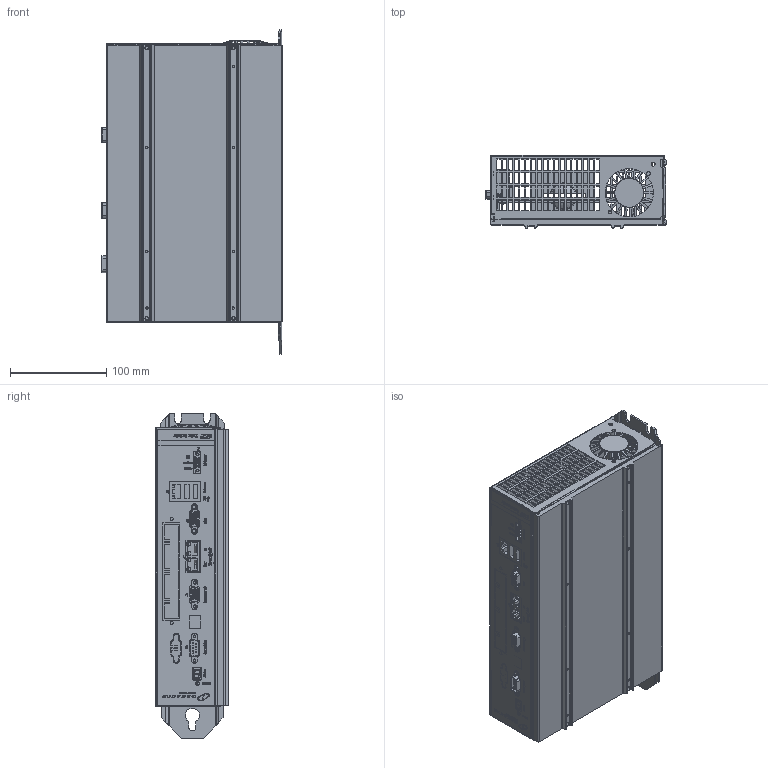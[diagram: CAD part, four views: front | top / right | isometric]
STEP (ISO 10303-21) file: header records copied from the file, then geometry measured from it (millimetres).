
FILE_DESCRIPTION (( 'STEP AP203' ), '1' );
FILE_NAME ('eZMP_ENCLOSURE.STEP', '2010-10-28T11:20:18', ( '' ), ( '' ), 'SwSTEP 2.0', 'SolidWorks 2009', '' );
FILE_SCHEMA (( 'CONFIG_CONTROL_DESIGN' ));
Products named in the file (14): eZMP_ENCLOSURE; Heatsink1110-0110r03a_1; Lid 1116-2017r05a_1; 1116-2018; Overlay; main board; LED; LED DIGIT  DISPLAY - NINGBO-FYS-3911AX_BX-XX; P2_; J9_; Ethernet_port; 482036772; Conn Phoenix  1827871; j6
Assembly tree (13 placements, depth 2):
  eZMP_ENCLOSURE
    LED DIGIT  DISPLAY - NINGBO-FYS-3911AX_BX-XX
    LED
    Conn Phoenix  1827871
    main board
    482036772
    1116-2018
    Ethernet_port
    Overlay
    j6
    Lid 1116-2017r05a_1
    J9_
    Heatsink1110-0110r03a_1
    P2_
Bounding box: 187.3 x 75.9 x 338 mm (x, y, z)
Volume: 636299.9 mm3; surface area: 606516.1 mm2
Topology: 45 solids, 45 shells, 5812 faces, 15822 edges, 10381 vertices
Faces by surface type: plane 3664, bspline 1125, cylinder 815, cone 145, torus 49, sphere 14
Entity records: 191131 total; most frequent: CARTESIAN_POINT 49226, ORIENTED_EDGE 31620, DIRECTION 24210, EDGE_CURVE 15810, VECTOR 11480, LINE 11480, VERTEX_POINT 10381, EDGE_LOOP 6583
